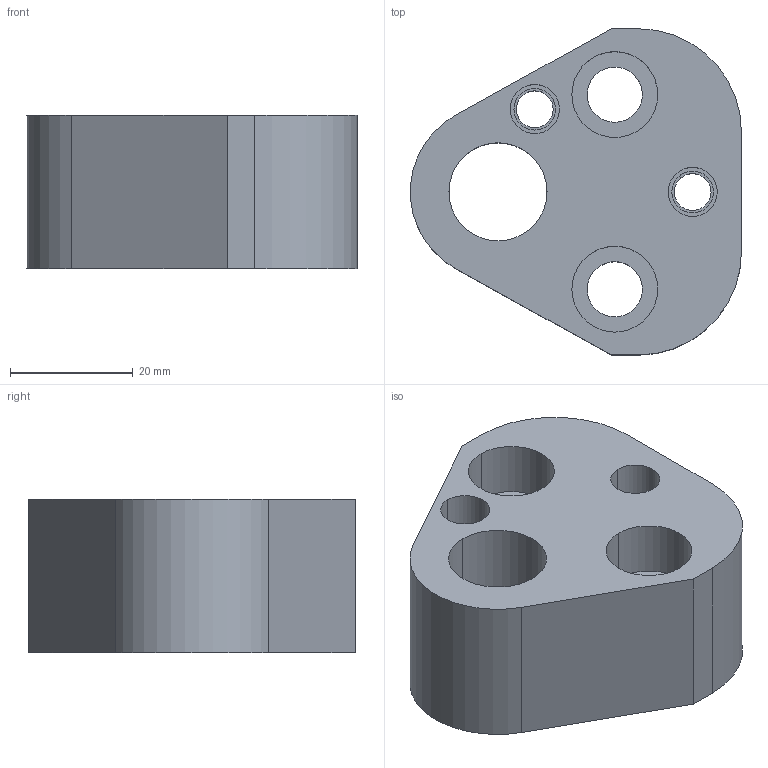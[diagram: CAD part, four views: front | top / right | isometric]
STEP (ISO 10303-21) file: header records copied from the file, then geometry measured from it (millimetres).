
FILE_DESCRIPTION(/* description */ (''),/* implementation_level */ '2;1');
FILE_NAME(/* name */ '3d_25crn-a16_03119_r00.stp',/* time_stamp */ '2011-01-10T14:17:55+09:00',/* author */ ('MISUMI'),/* organization */ (''),/* preprocessor_version */ 'ST-DEVELOPER v11',/* originating_system */ 'UGS - NX 5.0',/* authorisation */ '');
FILE_SCHEMA (('CONFIG_CONTROL_DESIGN'));
Length unit declared in the file: millimetre
Products named in the file (1): 3d_25crn-a16_03119_r00
Bounding box: 53.95 x 53.2 x 25 mm (x, y, z)
Volume: 40949.3 mm3; surface area: 11854.3 mm2
Topology: 1 solids, 1 shells, 43 faces, 100 edges, 66 vertices
Faces by surface type: cylinder 27, plane 14, cone 2
Entity records: 1360 total; most frequent: DIRECTION 244, CARTESIAN_POINT 210, ORIENTED_EDGE 200, EDGE_CURVE 100, AXIS2_PLACEMENT_3D 100, VERTEX_POINT 66, EDGE_LOOP 60, CIRCLE 56
